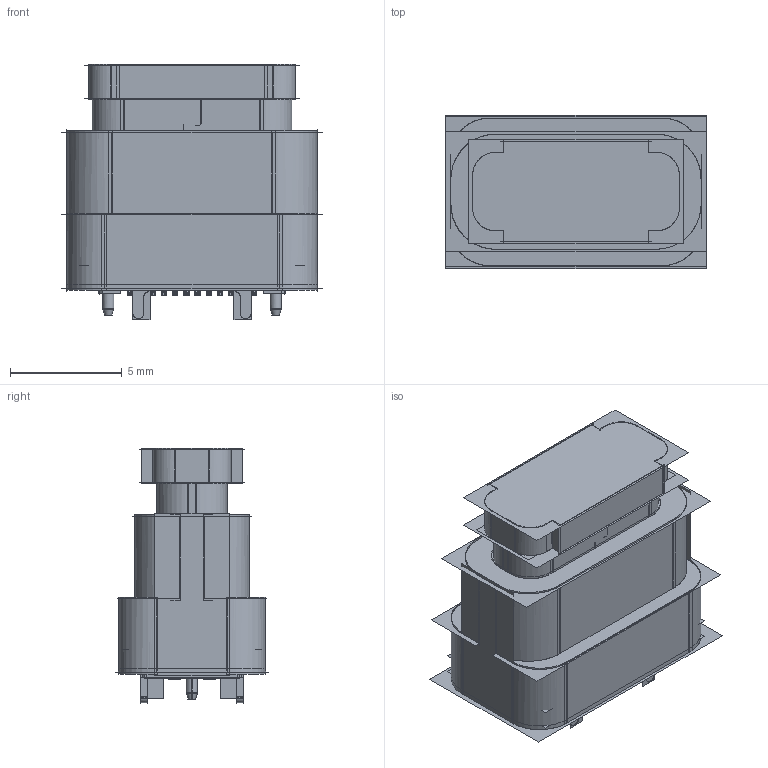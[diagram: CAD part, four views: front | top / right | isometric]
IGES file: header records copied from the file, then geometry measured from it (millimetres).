
Start section:  PTC IGES file: zd_24pin_litie_fs880-.igs
Global section: file name: zd_24pin_litie_fs880-.igs; native system: Creo Parametric by PTC Inc.; preprocessor: 2019010; author: connector; organization: Unknown; date: 20250407.183617; units: millimetre
Bounding box: 11.65 x 6.86 x 11.42 mm (x, y, z)
Surface area: 12823.3 mm2 (no closed solid volume)
Topology: 0 solids, 0 shells, 2591 faces, 19838 edges, 19838 vertices
Faces by surface type: bspline 2591
